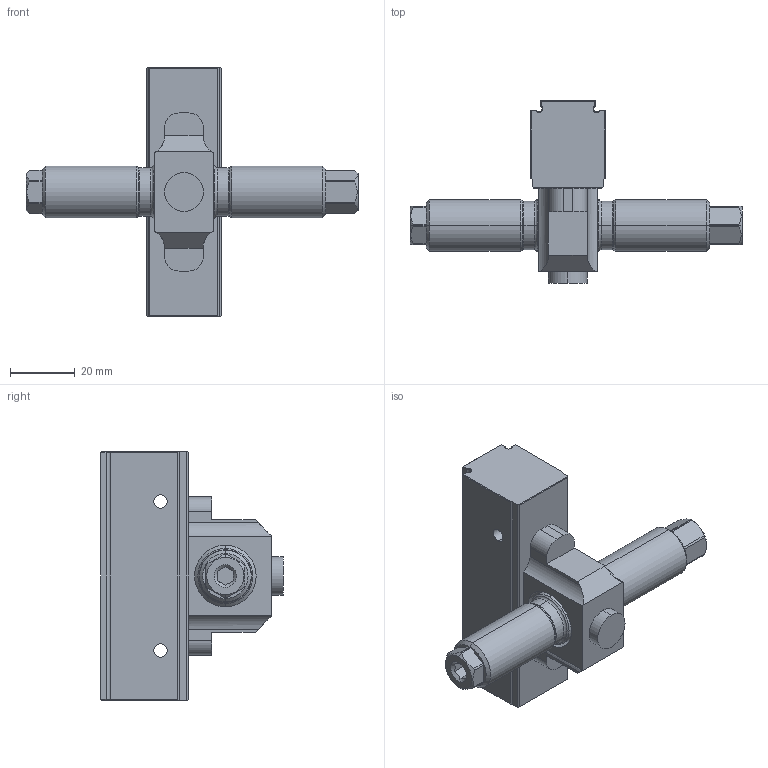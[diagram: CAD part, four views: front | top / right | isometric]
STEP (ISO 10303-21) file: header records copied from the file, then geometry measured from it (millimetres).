
FILE_DESCRIPTION (( 'STEP AP214' ), '1' );
FILE_NAME ('47085-TG17.STEP', '2023-02-10T12:48:43', ( '' ), ( '' ), 'SwSTEP 2.0', 'SolidWorks 2021', '' );
FILE_SCHEMA (( 'AUTOMOTIVE_DESIGN' ));
Length unit declared in the file: millimetre
Products named in the file (1): 47085-TG17
Bounding box: 102.5 x 56.4 x 76.6 mm (x, y, z)
Volume: 76011.7 mm3; surface area: 18437.6 mm2
Topology: 2 solids, 2 shells, 163 faces, 400 edges, 247 vertices
Faces by surface type: plane 78, cylinder 47, cone 30, torus 8
Entity records: 6821 total; most frequent: CARTESIAN_POINT 1107, DIRECTION 823, ORIENTED_EDGE 800, EDGE_CURVE 400, AXIS2_PLACEMENT_3D 295, VERTEX_POINT 247, LINE 233, VECTOR 233
